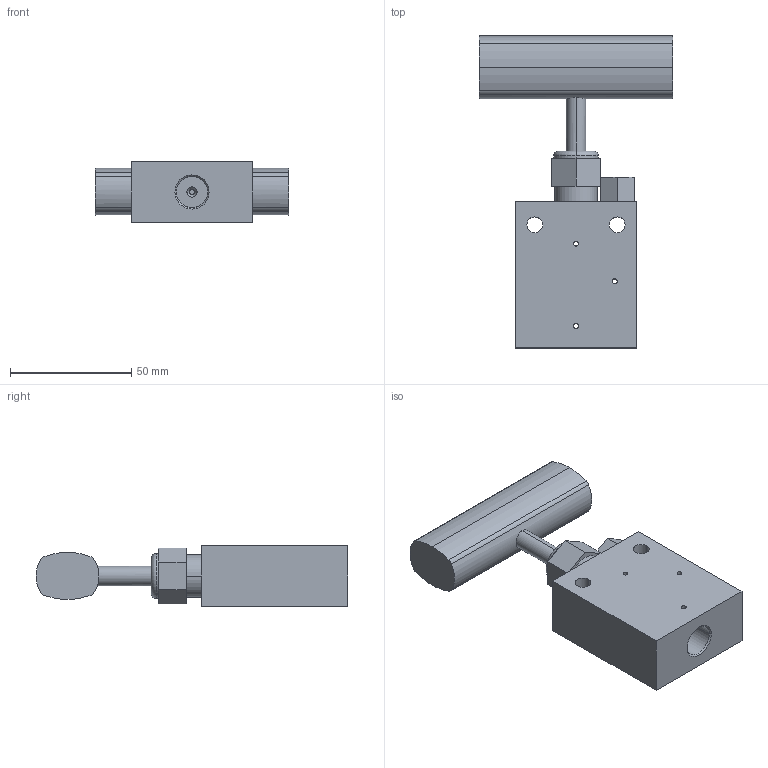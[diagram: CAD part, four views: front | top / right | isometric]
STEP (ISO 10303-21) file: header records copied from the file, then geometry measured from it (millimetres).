
FILE_DESCRIPTION (( 'STEP AP203' ), '1' );
FILE_NAME ('NV60VS04-A-00-00.STEP', '2023-02-21T05:47:09', ( 'USER' ), ( '' ), 'SwSTEP 2.0', 'SolidWorks 2020', '' );
FILE_SCHEMA (( 'CONFIG_CONTROL_DESIGN' ));
Length unit declared in the file: millimetre
Products named in the file (1): NV60VS04-A-00-00
Bounding box: 80 x 128.7 x 25 mm (x, y, z)
Volume: 113931.9 mm3; surface area: 23314.2 mm2
Topology: 1 solids, 1 shells, 89 faces, 218 edges, 138 vertices
Faces by surface type: cylinder 45, plane 28, cone 14, torus 2
Entity records: 3067 total; most frequent: CARTESIAN_POINT 802, DIRECTION 472, ORIENTED_EDGE 436, EDGE_CURVE 218, AXIS2_PLACEMENT_3D 180, VERTEX_POINT 138, EDGE_LOOP 116, VECTOR 112
